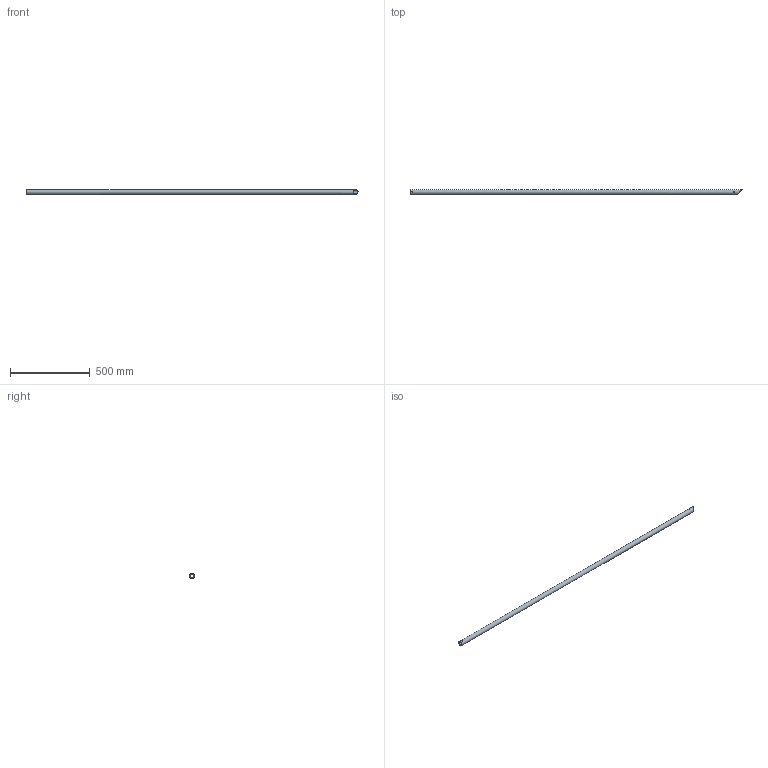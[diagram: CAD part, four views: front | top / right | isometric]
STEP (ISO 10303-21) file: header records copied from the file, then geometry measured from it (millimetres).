
FILE_DESCRIPTION(/* description */ (''),/* implementation_level */ '2;1');
FILE_NAME(/* name */ 'Pos106-Precisie buis 30x3-Aluminium-1st',/* time_stamp */ '2024-08-06T11:49:45+02:00',/* author */ (''),/* organization */ (''),/* preprocessor_version */ 'ST-DEVELOPER v16.5',/* originating_system */ 'HiCAD 2024 2901.2 Build 361',/* authorisation */ '');
FILE_SCHEMA (('AUTOMOTIVE_DESIGN { 1 0 10303 214 1 1 1 1 }'));
Length unit declared in the file: millimetre
Products named in the file (1): Pos106-Precisie buis 30x3-Aluminium-1st
Bounding box: 2085 x 30 x 30 mm (x, y, z)
Volume: 526632.3 mm3; surface area: 351797.7 mm2
Topology: 1 solids, 1 shells, 6 faces, 26 edges, 18 vertices
Faces by surface type: cylinder 4, plane 2
Full cylindrical faces by diameter (mm): 5 x2, 24 x1, 30 x1
Entity records: 274 total; most frequent: CARTESIAN_POINT 58, DIRECTION 20, PRESENTATION_STYLE_ASSIGNMENT 17, COLOUR_RGB 17, DRAUGHTING_PRE_DEFINED_CURVE_FONT 16, CURVE_STYLE 16, OVER_RIDING_STYLED_ITEM 16, ORIENTED_EDGE 16
